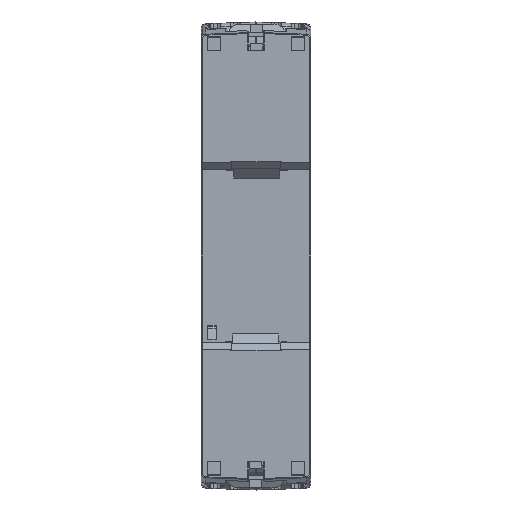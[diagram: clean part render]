
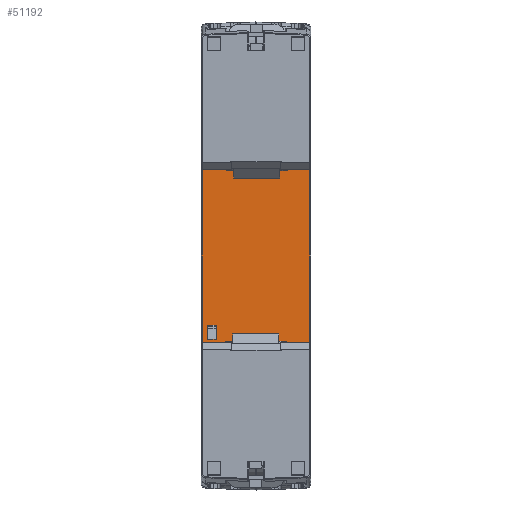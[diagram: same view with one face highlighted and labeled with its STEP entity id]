
A CAD part, front view. The second image highlights one B-rep face of the part: STEP entity #51192.
In plain terms, the highlighted planar face has unit normal (0, -1, 0).
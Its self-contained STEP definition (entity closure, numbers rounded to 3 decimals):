
#7252=DIRECTION('',(-1.,0.,0.));
#7253=VECTOR('',#7252,4.05);
#7254=CARTESIAN_POINT('',(4.25,5.5,-17.7));
#7255=LINE('',#7254,#7253);
#7259=DIRECTION('',(0.,0.,1.));
#7260=VECTOR('',#7259,35.4);
#7261=CARTESIAN_POINT('',(0.2,5.5,-17.7));
#7262=LINE('',#7261,#7260);
#7266=DIRECTION('',(1.,0.,0.));
#7267=VECTOR('',#7266,4.05);
#7268=CARTESIAN_POINT('',(0.2,5.5,17.7));
#7269=LINE('',#7268,#7267);
#7273=DIRECTION('',(1.,0.,0.));
#7274=VECTOR('',#7273,0.7);
#7275=CARTESIAN_POINT('',(4.45,5.5,17.9));
#7276=LINE('',#7275,#7274);
#7280=DIRECTION('',(1.,0.,0.));
#7281=VECTOR('',#7280,0.4);
#7282=CARTESIAN_POINT('',(17.65,5.5,17.9));
#7283=LINE('',#7282,#7281);
#7287=DIRECTION('',(1.,0.,0.));
#7288=VECTOR('',#7287,4.05);
#7289=CARTESIAN_POINT('',(18.25,5.5,17.7));
#7290=LINE('',#7289,#7288);
#7294=DIRECTION('',(0.,0.,-1.));
#7295=VECTOR('',#7294,35.4);
#7296=CARTESIAN_POINT('',(22.3,5.5,17.7));
#7297=LINE('',#7296,#7295);
#7301=DIRECTION('',(-1.,0.,0.));
#7302=VECTOR('',#7301,4.05);
#7303=CARTESIAN_POINT('',(22.3,5.5,-17.7));
#7304=LINE('',#7303,#7302);
#7329=DIRECTION('',(-0.707,0.,0.707));
#7330=VECTOR('',#7329,0.283);
#7331=CARTESIAN_POINT('',(4.45,5.5,-17.9));
#7332=LINE('',#7331,#7330);
#7350=DIRECTION('',(1.,0.,0.));
#7351=VECTOR('',#7350,0.5);
#7352=CARTESIAN_POINT('',(4.45,5.5,-17.9));
#7353=LINE('',#7352,#7351);
#7357=DIRECTION('',(1.,0.,0.));
#7358=VECTOR('',#7357,0.6);
#7359=CARTESIAN_POINT('',(17.45,5.5,-17.9));
#7360=LINE('',#7359,#7358);
#7392=DIRECTION('',(-0.707,0.,-0.707));
#7393=VECTOR('',#7392,0.283);
#7394=CARTESIAN_POINT('',(18.25,5.5,-17.7));
#7395=LINE('',#7394,#7393);
#7795=DIRECTION('',(0.707,0.,-0.707));
#7796=VECTOR('',#7795,0.283);
#7797=CARTESIAN_POINT('',(18.05,5.5,17.9));
#7798=LINE('',#7797,#7796);
#7809=DIRECTION('',(0.,0.,-1.));
#7810=VECTOR('',#7809,0.4);
#7811=CARTESIAN_POINT('',(17.65,5.5,17.9));
#7812=LINE('',#7811,#7810);
#7830=DIRECTION('',(-1.,0.,0.));
#7831=VECTOR('',#7830,12.5);
#7832=CARTESIAN_POINT('',(17.65,5.5,17.5));
#7833=LINE('',#7832,#7831);
#7872=DIRECTION('',(0.,0.,-1.));
#7873=VECTOR('',#7872,0.4);
#7874=CARTESIAN_POINT('',(5.15,5.5,17.9));
#7875=LINE('',#7874,#7873);
#8012=DIRECTION('',(0.707,0.,0.707));
#8013=VECTOR('',#8012,0.283);
#8014=CARTESIAN_POINT('',(4.25,5.5,17.7));
#8015=LINE('',#8014,#8013);
#8110=DIRECTION('',(0.,0.,1.));
#8111=VECTOR('',#8110,0.4);
#8112=CARTESIAN_POINT('',(4.95,5.5,-17.9));
#8113=LINE('',#8112,#8111);
#8138=DIRECTION('',(1.,0.,0.));
#8139=VECTOR('',#8138,12.5);
#8140=CARTESIAN_POINT('',(4.95,5.5,-17.5));
#8141=LINE('',#8140,#8139);
#8166=DIRECTION('',(0.,0.,1.));
#8167=VECTOR('',#8166,0.4);
#8168=CARTESIAN_POINT('',(17.45,5.5,-17.9));
#8169=LINE('',#8168,#8167);
#8313=DIRECTION('',(1.,0.,0.));
#8314=VECTOR('',#8313,1.8);
#8315=CARTESIAN_POINT('',(1.3,5.5,-14.219));
#8316=LINE('',#8315,#8314);
#8320=DIRECTION('',(0.,0.,1.));
#8321=VECTOR('',#8320,0.327);
#8322=CARTESIAN_POINT('',(3.1,5.5,-14.546));
#8323=LINE('',#8322,#8321);
#8335=DIRECTION('',(0.,0.,-1.));
#8336=VECTOR('',#8335,0.37);
#8337=CARTESIAN_POINT('',(3.1,5.5,-14.546));
#8338=LINE('',#8337,#8336);
#8363=DIRECTION('',(1.,0.,0.));
#8364=VECTOR('',#8363,1.8);
#8365=CARTESIAN_POINT('',(1.3,5.5,-14.916));
#8366=LINE('',#8365,#8364);
#8370=DIRECTION('',(0.,0.,-1.));
#8371=VECTOR('',#8370,0.37);
#8372=CARTESIAN_POINT('',(1.3,5.5,-14.546));
#8373=LINE('',#8372,#8371);
#8398=DIRECTION('',(0.,0.,1.));
#8399=VECTOR('',#8398,0.327);
#8400=CARTESIAN_POINT('',(1.3,5.5,-14.546));
#8401=LINE('',#8400,#8399);
#43289=CARTESIAN_POINT('',(22.3,5.5,17.7));
#43290=VERTEX_POINT('',#43289);
#43293=CARTESIAN_POINT('',(22.3,5.5,-17.7));
#43294=VERTEX_POINT('',#43293);
#44040=CARTESIAN_POINT('',(0.2,5.5,-17.7));
#44041=VERTEX_POINT('',#44040);
#44044=CARTESIAN_POINT('',(0.2,5.5,17.7));
#44045=VERTEX_POINT('',#44044);
#45390=CARTESIAN_POINT('',(18.05,5.5,17.9));
#45391=VERTEX_POINT('',#45390);
#45392=CARTESIAN_POINT('',(18.25,5.5,17.7));
#45393=VERTEX_POINT('',#45392);
#45394=CARTESIAN_POINT('',(18.25,5.5,-17.7));
#45395=CARTESIAN_POINT('',(18.05,5.5,-17.9));
#45396=VERTEX_POINT('',#45394);
#45397=VERTEX_POINT('',#45395);
#45593=CARTESIAN_POINT('',(17.65,5.5,17.5));
#45594=CARTESIAN_POINT('',(5.15,5.5,17.5));
#45595=VERTEX_POINT('',#45593);
#45596=VERTEX_POINT('',#45594);
#45601=CARTESIAN_POINT('',(5.15,5.5,17.9));
#45602=VERTEX_POINT('',#45601);
#45603=CARTESIAN_POINT('',(17.65,5.5,17.9));
#45604=VERTEX_POINT('',#45603);
#45775=CARTESIAN_POINT('',(4.45,5.5,-17.9));
#45776=CARTESIAN_POINT('',(4.25,5.5,-17.7));
#45777=VERTEX_POINT('',#45775);
#45778=VERTEX_POINT('',#45776);
#45779=CARTESIAN_POINT('',(4.45,5.5,17.9));
#45780=VERTEX_POINT('',#45779);
#45781=CARTESIAN_POINT('',(4.25,5.5,17.7));
#45782=VERTEX_POINT('',#45781);
#45970=CARTESIAN_POINT('',(1.3,5.5,-14.219));
#45971=CARTESIAN_POINT('',(3.1,5.5,-14.219));
#45972=VERTEX_POINT('',#45970);
#45973=VERTEX_POINT('',#45971);
#45974=CARTESIAN_POINT('',(1.3,5.5,-14.916));
#45975=CARTESIAN_POINT('',(3.1,5.5,-14.916));
#45976=VERTEX_POINT('',#45974);
#45977=VERTEX_POINT('',#45975);
#45978=CARTESIAN_POINT('',(1.3,5.5,-14.546));
#45979=VERTEX_POINT('',#45978);
#45980=CARTESIAN_POINT('',(3.1,5.5,-14.546));
#45981=VERTEX_POINT('',#45980);
#45990=CARTESIAN_POINT('',(4.95,5.5,-17.5));
#45991=CARTESIAN_POINT('',(17.45,5.5,-17.5));
#45992=VERTEX_POINT('',#45990);
#45993=VERTEX_POINT('',#45991);
#45998=CARTESIAN_POINT('',(17.45,5.5,-17.9));
#45999=VERTEX_POINT('',#45998);
#46000=CARTESIAN_POINT('',(4.95,5.5,-17.9));
#46001=VERTEX_POINT('',#46000);
#51132=CARTESIAN_POINT('',(22.5,5.5,17.7));
#51133=DIRECTION('',(0.,1.,0.));
#51134=DIRECTION('',(0.,0.,-1.));
#51135=AXIS2_PLACEMENT_3D('',#51132,#51133,#51134);
#51136=PLANE('',#51135);
#51138=ORIENTED_EDGE('',*,*,#51137,.T.);
#51140=ORIENTED_EDGE('',*,*,#51139,.T.);
#51142=ORIENTED_EDGE('',*,*,#51141,.T.);
#51144=ORIENTED_EDGE('',*,*,#51143,.T.);
#51146=ORIENTED_EDGE('',*,*,#51145,.T.);
#51148=ORIENTED_EDGE('',*,*,#51147,.T.);
#51150=ORIENTED_EDGE('',*,*,#51149,.F.);
#51152=ORIENTED_EDGE('',*,*,#51151,.F.);
#51154=ORIENTED_EDGE('',*,*,#51153,.T.);
#51156=ORIENTED_EDGE('',*,*,#51155,.T.);
#51157=ORIENTED_EDGE('',*,*,#51120,.T.);
#51159=ORIENTED_EDGE('',*,*,#51158,.T.);
#51161=ORIENTED_EDGE('',*,*,#51160,.T.);
#51163=ORIENTED_EDGE('',*,*,#51162,.T.);
#51165=ORIENTED_EDGE('',*,*,#51164,.F.);
#51167=ORIENTED_EDGE('',*,*,#51166,.T.);
#51169=ORIENTED_EDGE('',*,*,#51168,.F.);
#51171=ORIENTED_EDGE('',*,*,#51170,.F.);
#51173=ORIENTED_EDGE('',*,*,#51172,.F.);
#51175=ORIENTED_EDGE('',*,*,#51174,.T.);
#51176=EDGE_LOOP('',(#51138,#51140,#51142,#51144,#51146,#51148,#51150,#51152,
#51154,#51156,#51157,#51159,#51161,#51163,#51165,#51167,#51169,#51171,#51173,
#51175));
#51177=FACE_OUTER_BOUND('',#51176,.F.);
#51179=ORIENTED_EDGE('',*,*,#51178,.F.);
#51181=ORIENTED_EDGE('',*,*,#51180,.F.);
#51183=ORIENTED_EDGE('',*,*,#51182,.T.);
#51185=ORIENTED_EDGE('',*,*,#51184,.T.);
#51187=ORIENTED_EDGE('',*,*,#51186,.F.);
#51189=ORIENTED_EDGE('',*,*,#51188,.T.);
#51190=EDGE_LOOP('',(#51179,#51181,#51183,#51185,#51187,#51189));
#51191=FACE_BOUND('',#51190,.F.);
#51120=EDGE_CURVE('',#45393,#43290,#7290,.T.);
#51137=EDGE_CURVE('',#45778,#44041,#7255,.T.);
#51139=EDGE_CURVE('',#44041,#44045,#7262,.T.);
#51141=EDGE_CURVE('',#44045,#45782,#7269,.T.);
#51143=EDGE_CURVE('',#45782,#45780,#8015,.T.);
#51145=EDGE_CURVE('',#45780,#45602,#7276,.T.);
#51147=EDGE_CURVE('',#45602,#45596,#7875,.T.);
#51149=EDGE_CURVE('',#45595,#45596,#7833,.T.);
#51151=EDGE_CURVE('',#45604,#45595,#7812,.T.);
#51153=EDGE_CURVE('',#45604,#45391,#7283,.T.);
#51155=EDGE_CURVE('',#45391,#45393,#7798,.T.);
#51158=EDGE_CURVE('',#43290,#43294,#7297,.T.);
#51160=EDGE_CURVE('',#43294,#45396,#7304,.T.);
#51162=EDGE_CURVE('',#45396,#45397,#7395,.T.);
#51164=EDGE_CURVE('',#45999,#45397,#7360,.T.);
#51166=EDGE_CURVE('',#45999,#45993,#8169,.T.);
#51168=EDGE_CURVE('',#45992,#45993,#8141,.T.);
#51170=EDGE_CURVE('',#46001,#45992,#8113,.T.);
#51172=EDGE_CURVE('',#45777,#46001,#7353,.T.);
#51174=EDGE_CURVE('',#45777,#45778,#7332,.T.);
#51178=EDGE_CURVE('',#45972,#45973,#8316,.T.);
#51180=EDGE_CURVE('',#45979,#45972,#8401,.T.);
#51182=EDGE_CURVE('',#45979,#45976,#8373,.T.);
#51184=EDGE_CURVE('',#45976,#45977,#8366,.T.);
#51186=EDGE_CURVE('',#45981,#45977,#8338,.T.);
#51188=EDGE_CURVE('',#45981,#45973,#8323,.T.);
#51192=ADVANCED_FACE('',(#51177,#51191),#51136,.F.);
